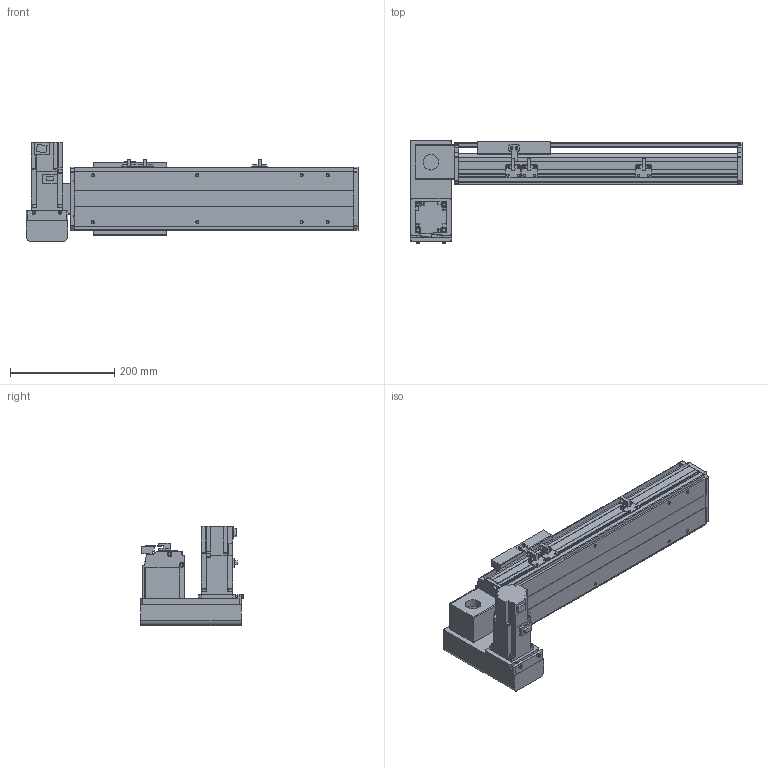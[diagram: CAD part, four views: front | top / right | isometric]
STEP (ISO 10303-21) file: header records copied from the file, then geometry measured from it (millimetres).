
FILE_DESCRIPTION( ( 'STEP AP214' ), '1' );
FILE_NAME( 'x:/temp/worker_27/temp/exporttempdir_6708_38_HBsU8/format_0/PBS120-P40-S250-LD-T40-C1-N(0).stp', '2022-06-06T00:15:31', ( 'License CC BY-ND 4.0' ), ( 'CADENAS' ), ' ', 'PARTsolutions', ' ' );
FILE_SCHEMA( ( 'AUTOMOTIVE_DESIGN { 1 0 10303 214 1 1 1 1 }' ) );
Length unit declared in the file: millimetre
Products named in the file (7): PBS120-P40-S250-LD-T40-C1-N(0); _PBS120-S250()_body; _PBS120T-LD_motors; _T40-p1; _PBS120_sliser; _PBS120_plant; _PBS120_sensor
Assembly tree (8 placements, depth 2):
  PBS120-P40-S250-LD-T40-C1-N(0)
    _PBS120-S250()_body
    _PBS120T-LD_motors
    _T40-p1
    _PBS120_sliser
    _PBS120_plant
    _PBS120_sensor  x3
Bounding box: 636 x 196 x 189.7 mm (x, y, z)
Volume: 3519871.1 mm3; surface area: 625280.9 mm2
Topology: 8 solids, 8 shells, 804 faces, 2116 edges, 1363 vertices
Faces by surface type: plane 541, cylinder 221, cone 40, torus 2
Full cylindrical faces by diameter (mm): 2.459 x6, 3.242 x4, 4 x2, 4.134 x4, 4.5 x10, 4.917 x12, 5.5 x11, 6 x2, 6.6 x1, 7 x2, 8.5 x4, 9 x4, 12 x1, 14 x1, 30 x2, 40 x1, 50 x2
Entity records: 26652 total; most frequent: DIRECTION 3644, CARTESIAN_POINT 3605, ORIENTED_EDGE 3454, EDGE_CURVE 1727, LINE 1228, VECTOR 1228, AXIS2_PLACEMENT_3D 1208, VERTEX_POINT 1169
